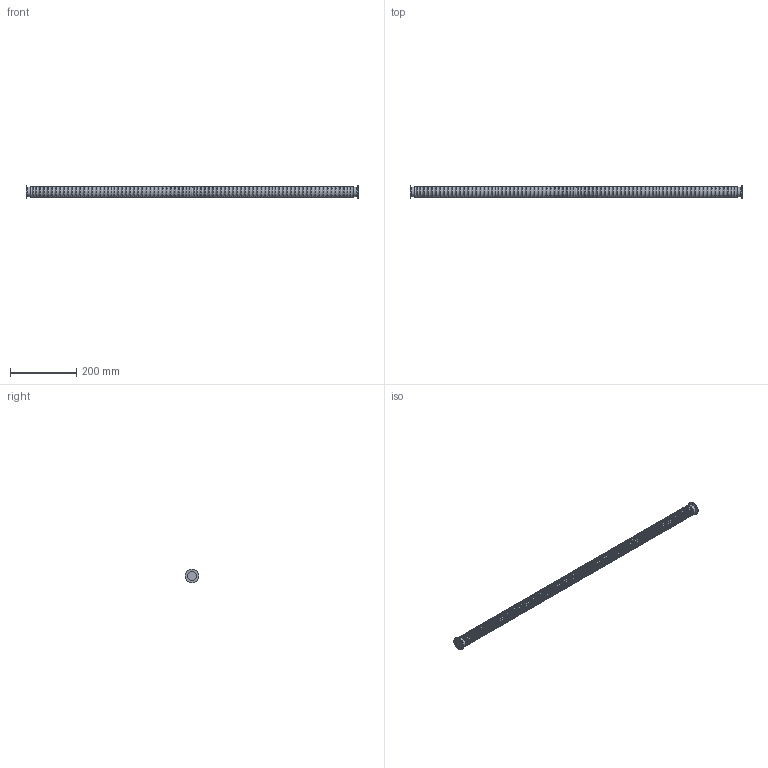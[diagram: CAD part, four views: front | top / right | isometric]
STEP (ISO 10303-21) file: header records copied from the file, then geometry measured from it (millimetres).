
FILE_DESCRIPTION( ( 'Unknown' ), '1' );
FILE_NAME( 'X:/Daten ( aktueller Bestand )/Projekte und Zeichnungen/Solid Edge/6 Verbindungsbauteile/Edelstahlschlauch/1924.stp', 'Unknown', ( 'Unknown' ), ( 'Unknown' ), 'XStep 1.0', 'Unknown', ' ' );
FILE_SCHEMA( ( 'automotive_design' ) );
Length unit declared in the file: millimetre
Products named in the file (1): 1
Bounding box: 1000 x 40 x 40 mm (x, y, z)
Volume: 791521.9 mm3; surface area: 143693.4 mm2
Topology: 1 solids, 1 shells, 496 faces, 983 edges, 495 vertices
Faces by surface type: cylinder 246, torus 240, plane 8, cone 2
Full cylindrical faces by diameter (mm): 26.2 x2, 30 x240, 32 x2, 40 x2
Entity records: 13898 total; most frequent: DIRECTION 1984, CARTESIAN_POINT 1487, AXIS2_PLACEMENT_3D 992, EDGE_LOOP 990, ORIENTED_EDGE 990, FACE_OUTER_BOUND 982, STYLED_ITEM 496, PRESENTATION_STYLE_ASSIGNMENT 496
